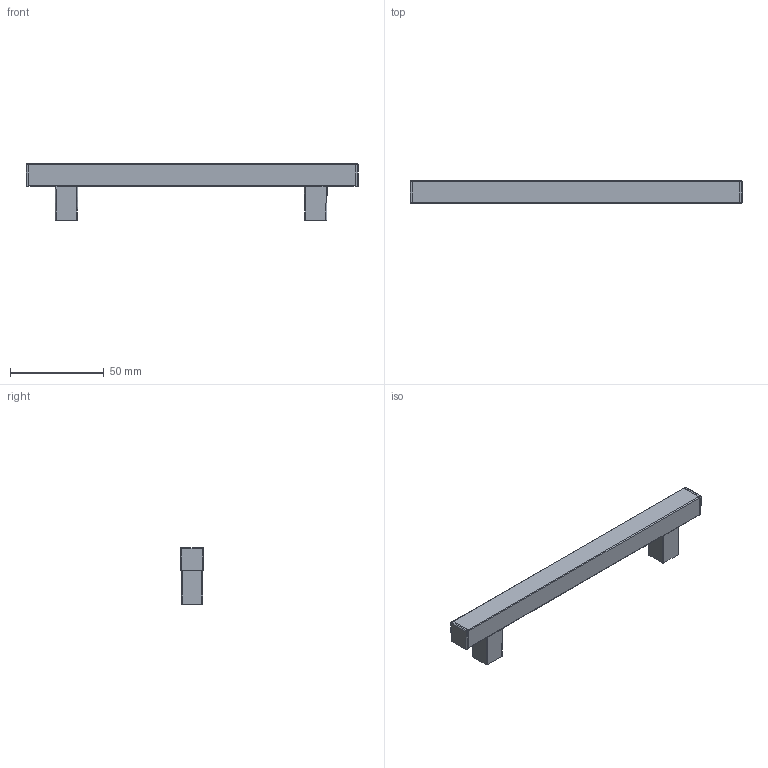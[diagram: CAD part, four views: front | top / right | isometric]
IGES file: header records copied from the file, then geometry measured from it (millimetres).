
Start section: C
Global section: file name: 8141 A.igs; native system: By Siemens PLM Incorporated; preprocessor: XPlus GENERIC/IGES 16.0.42; author: Author; organization: Title; date: 20210506.075811; units: millimetre
Bounding box: 177.2 x 12.2 x 30.1 mm (x, y, z)
Surface area: 20362.2 mm2 (no closed solid volume)
Topology: 0 solids, 0 shells, 347 faces, 2040 edges, 2036 vertices
Faces by surface type: bspline 347
